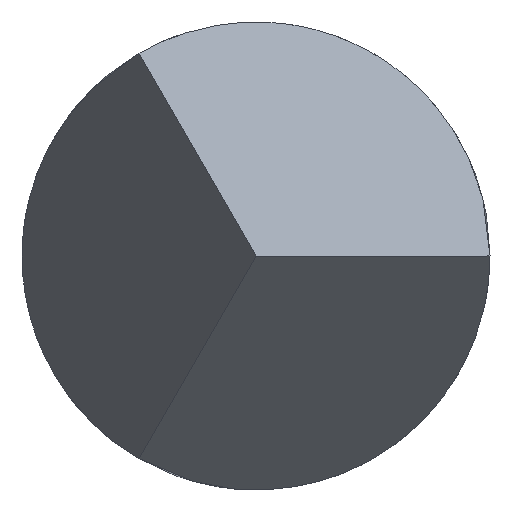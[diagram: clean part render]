
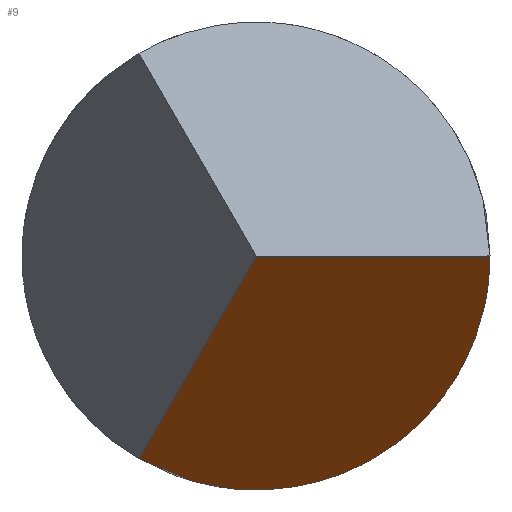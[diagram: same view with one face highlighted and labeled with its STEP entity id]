
A CAD part, left-side view. The second image highlights one B-rep face of the part: STEP entity #9.
In plain terms, the highlighted planar face has unit normal (-0.5, -0.433, -0.75).
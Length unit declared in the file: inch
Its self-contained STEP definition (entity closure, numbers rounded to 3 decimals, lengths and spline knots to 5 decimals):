
#2 = VECTOR ( 'NONE', #54, 39.37008 ) ;
#9 = ADVANCED_FACE ( 'NONE', ( #106 ), #366, .F. ) ;
#23 = EDGE_LOOP ( 'NONE', ( #107, #219, #109 ) ) ;
#54 = DIRECTION ( 'NONE',  ( -0.655, -0.378, 0.655 ) ) ;
#65 = DIRECTION ( 'NONE',  ( 0.5, 0.433, 0.75 ) ) ;
#101 = VERTEX_POINT ( 'NONE', #156 ) ;
#106 = FACE_OUTER_BOUND ( 'NONE', #23, .T. ) ;
#107 = ORIENTED_EDGE ( 'NONE', *, *, #152, .F. ) ;
#109 = ORIENTED_EDGE ( 'NONE', *, *, #367, .F. ) ;
#112 = DIRECTION ( 'NONE',  ( 0.655, -0.756, 0. ) ) ;
#131 = CARTESIAN_POINT ( 'NONE',  ( 0.0617, -0.00713, -0.03702 ) ) ;
#146 = VERTEX_POINT ( 'NONE', #236 ) ;
#152 = EDGE_CURVE ( 'NONE', #101, #146, #273, .T. ) ;
#156 = CARTESIAN_POINT ( 'NONE',  ( 0.02468, 0.01425, -0.02468 ) ) ;
#174 = CARTESIAN_POINT ( 'NONE',  ( 0.02468, -0.0285, 0. ) ) ;
#182 = EDGE_CURVE ( 'NONE', #101, #396, #350, .T. ) ;
#203 = VECTOR ( 'NONE', #112, 39.37008 ) ;
#219 = ORIENTED_EDGE ( 'NONE', *, *, #182, .T. ) ;
#236 = CARTESIAN_POINT ( 'NONE',  ( 0., 0., 0. ) ) ;
#273 = LINE ( 'NONE', #393, #2 ) ;
#294 = DIRECTION ( 'NONE',  ( 0.832, 0., -0.555 ) ) ;
#304 = AXIS2_PLACEMENT_3D ( 'NONE', #401, #65, #294 ) ;
#322 = CARTESIAN_POINT ( 'NONE',  ( 0.0617, -0.0285, -0.02468 ) ) ;
#350 =( BOUNDED_CURVE ( )  B_SPLINE_CURVE ( 3, ( #354, #131, #322, #174 ),
 .UNSPECIFIED., .F., .F. ) 
 B_SPLINE_CURVE_WITH_KNOTS ( ( 4, 4 ),
 ( 2.0944, 4.18879 ),
 .UNSPECIFIED. ) 
 CURVE ( )  GEOMETRIC_REPRESENTATION_ITEM ( )  RATIONAL_B_SPLINE_CURVE ( ( 1., 0.667, 0.667, 1. ) ) 
 REPRESENTATION_ITEM ( '' )  );
#354 = CARTESIAN_POINT ( 'NONE',  ( 0.02468, 0.01425, -0.02468 ) ) ;
#363 = CARTESIAN_POINT ( 'NONE',  ( 0., 0., 0. ) ) ;
#366 = PLANE ( 'NONE',  #304 ) ;
#367 = EDGE_CURVE ( 'NONE', #146, #396, #404, .T. ) ;
#393 = CARTESIAN_POINT ( 'NONE',  ( 0.02468, 0.01425, -0.02468 ) ) ;
#396 = VERTEX_POINT ( 'NONE', #449 ) ;
#401 = CARTESIAN_POINT ( 'NONE',  ( 0.00739, -0.02876, 0.01168 ) ) ;
#404 = LINE ( 'NONE', #363, #203 ) ;
#449 = CARTESIAN_POINT ( 'NONE',  ( 0.02468, -0.0285, 0. ) ) ;
